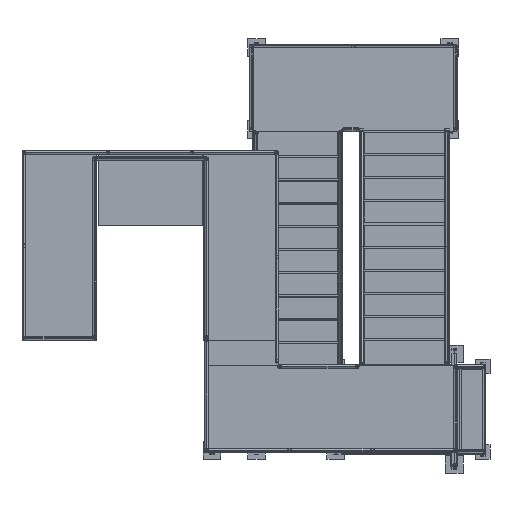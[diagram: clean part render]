
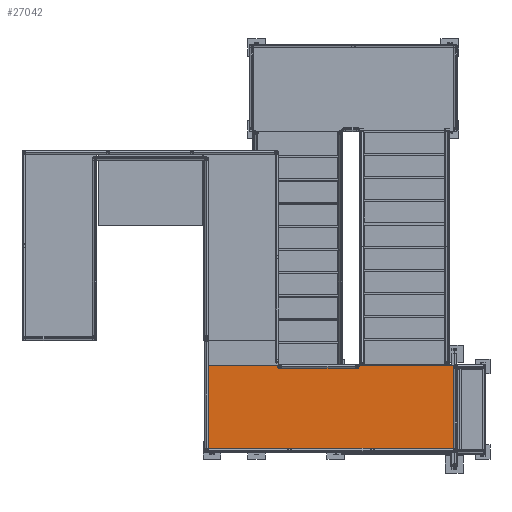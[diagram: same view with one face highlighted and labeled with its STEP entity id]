
A CAD part, top view. The second image highlights one B-rep face of the part: STEP entity #27042.
In plain terms, the highlighted planar face has unit normal (0, 0, 1).
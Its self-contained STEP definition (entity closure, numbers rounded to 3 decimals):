
#2090 = VECTOR ( 'NONE', #34166, 1000. ) ;
#2389 = ORIENTED_EDGE ( 'NONE', *, *, #14711, .F. ) ;
#2642 = VERTEX_POINT ( 'NONE', #30612 ) ;
#3893 = ORIENTED_EDGE ( 'NONE', *, *, #23803, .F. ) ;
#6651 = CARTESIAN_POINT ( 'NONE',  ( 7125., -1962., 4800. ) ) ;
#10384 = VECTOR ( 'NONE', #41906, 1000. ) ;
#10672 = AXIS2_PLACEMENT_3D ( 'NONE', #14857, #33332, #52689 ) ;
#10923 = FACE_OUTER_BOUND ( 'NONE', #49016, .T. ) ;
#13778 = CARTESIAN_POINT ( 'NONE',  ( 5712., -2450., 4800. ) ) ;
#14488 = ORIENTED_EDGE ( 'NONE', *, *, #55674, .F. ) ;
#14711 = EDGE_CURVE ( 'NONE', #43824, #36585, #27098, .T. ) ;
#14857 = CARTESIAN_POINT ( 'NONE',  ( 7125., -2450., 4800. ) ) ;
#20468 = CARTESIAN_POINT ( 'NONE',  ( 5712., -2938., 4800. ) ) ;
#21963 = DIRECTION ( 'NONE',  ( 0., -1., 0. ) ) ;
#22301 = ORIENTED_EDGE ( 'NONE', *, *, #27525, .F. ) ;
#23803 = EDGE_CURVE ( 'NONE', #36585, #52850, #41631, .T. ) ;
#25709 = LINE ( 'NONE', #6651, #2090 ) ;
#26305 = VECTOR ( 'NONE', #41932, 1000. ) ;
#27042 = ADVANCED_FACE ( 'NONE', ( #10923 ), #33645, .T. ) ;
#27098 = LINE ( 'NONE', #41028, #42165 ) ;
#27525 = EDGE_CURVE ( 'NONE', #2642, #43824, #25709, .T. ) ;
#30612 = CARTESIAN_POINT ( 'NONE',  ( 5712., -1962., 4800. ) ) ;
#32714 = CARTESIAN_POINT ( 'NONE',  ( 8538., -2938., 4800. ) ) ;
#33332 = DIRECTION ( 'NONE',  ( 0., 0., 1. ) ) ;
#33645 = PLANE ( 'NONE',  #10672 ) ;
#34166 = DIRECTION ( 'NONE',  ( 1., 0., 0. ) ) ;
#36585 = VERTEX_POINT ( 'NONE', #32714 ) ;
#36813 = LINE ( 'NONE', #13778, #26305 ) ;
#41028 = CARTESIAN_POINT ( 'NONE',  ( 8538., -2450., 4800. ) ) ;
#41033 = CARTESIAN_POINT ( 'NONE',  ( 7125., -2938., 4800. ) ) ;
#41631 = LINE ( 'NONE', #41033, #10384 ) ;
#41906 = DIRECTION ( 'NONE',  ( -1., 0., 0. ) ) ;
#41932 = DIRECTION ( 'NONE',  ( 0., 1., 0. ) ) ;
#42165 = VECTOR ( 'NONE', #21963, 1000. ) ;
#43824 = VERTEX_POINT ( 'NONE', #53173 ) ;
#49016 = EDGE_LOOP ( 'NONE', ( #3893, #2389, #22301, #14488 ) ) ;
#52689 = DIRECTION ( 'NONE',  ( 1., 0., 0. ) ) ;
#52850 = VERTEX_POINT ( 'NONE', #20468 ) ;
#53173 = CARTESIAN_POINT ( 'NONE',  ( 8538., -1962., 4800. ) ) ;
#55674 = EDGE_CURVE ( 'NONE', #52850, #2642, #36813, .T. ) ;
